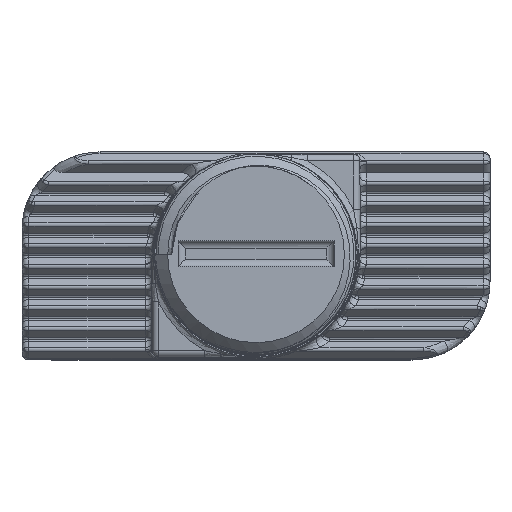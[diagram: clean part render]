
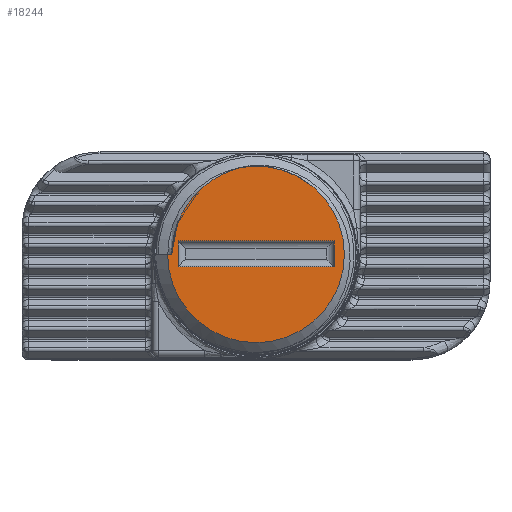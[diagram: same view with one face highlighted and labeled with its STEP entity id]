
A CAD part, top view. The second image highlights one B-rep face of the part: STEP entity #18244.
In plain terms, the highlighted planar face has unit normal (0, 0, 1).
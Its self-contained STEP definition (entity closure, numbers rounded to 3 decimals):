
#397 = CARTESIAN_POINT ( 'NONE',  ( 3., 0.164, 39.5 ) ) ;
#571 = CARTESIAN_POINT ( 'NONE',  ( 0., 0.647, 39.5 ) ) ;
#914 = CARTESIAN_POINT ( 'NONE',  ( -2.986, 1.936, 39.5 ) ) ;
#1511 = FACE_BOUND ( 'NONE', #6872, .T. ) ;
#2196 = DIRECTION ( 'NONE',  ( 0., 0., 1. ) ) ;
#2413 = CARTESIAN_POINT ( 'NONE',  ( -1.012, 3.867, 39.5 ) ) ;
#2473 = CARTESIAN_POINT ( 'NONE',  ( -3.157, 1.399, 39.5 ) ) ;
#2486 = FACE_OUTER_BOUND ( 'NONE', #6166, .T. ) ;
#2640 = EDGE_CURVE ( 'NONE', #5070, #4145, #8839, .T. ) ;
#3398 = EDGE_CURVE ( 'NONE', #8612, #8654, #7965, .T. ) ;
#3593 = VECTOR ( 'NONE', #7727, 1000. ) ;
#3770 = CARTESIAN_POINT ( 'NONE',  ( -0.626, 3.984, 39.5 ) ) ;
#3989 = CARTESIAN_POINT ( 'NONE',  ( -0.648, 3.978, 39.5 ) ) ;
#4057 = CARTESIAN_POINT ( 'NONE',  ( -3.238, 0.837, 39.5 ) ) ;
#4145 = VERTEX_POINT ( 'NONE', #10215 ) ;
#4253 = VECTOR ( 'NONE', #4517, 1000. ) ;
#4517 = DIRECTION ( 'NONE',  ( 1., 0., 0. ) ) ;
#4851 = EDGE_CURVE ( 'NONE', #11271, #12586, #10464, .T. ) ;
#5070 = VERTEX_POINT ( 'NONE', #20592 ) ;
#5205 = CARTESIAN_POINT ( 'NONE',  ( 3., 1.164, 39.5 ) ) ;
#5270 = CARTESIAN_POINT ( 'NONE',  ( -3., 0.164, 39.5 ) ) ;
#5304 = CARTESIAN_POINT ( 'NONE',  ( -0.581, 3.997, 39.5 ) ) ;
#5483 = LINE ( 'NONE', #17129, #9290 ) ;
#5586 = LINE ( 'NONE', #5784, #14173 ) ;
#5613 = CARTESIAN_POINT ( 'NONE',  ( -1.832, 3.4, 39.5 ) ) ;
#5784 = CARTESIAN_POINT ( 'NONE',  ( -3., 1.164, 39.5 ) ) ;
#5884 = ORIENTED_EDGE ( 'NONE', *, *, #12447, .F. ) ;
#6166 = EDGE_LOOP ( 'NONE', ( #15194, #11665, #13450, #18747 ) ) ;
#6872 = EDGE_LOOP ( 'NONE', ( #5884, #11715, #18540, #9693 ) ) ;
#6926 = PLANE ( 'NONE',  #10444 ) ;
#7217 = CARTESIAN_POINT ( 'NONE',  ( -2.259, 3.031, 39.5 ) ) ;
#7233 = VECTOR ( 'NONE', #8390, 1000. ) ;
#7238 = VERTEX_POINT ( 'NONE', #5270 ) ;
#7338 = LINE ( 'NONE', #12546, #3593 ) ;
#7404 = CARTESIAN_POINT ( 'NONE',  ( -3., 1.164, 39.5 ) ) ;
#7727 = DIRECTION ( 'NONE',  ( -1., 0., 0. ) ) ;
#7965 = LINE ( 'NONE', #5205, #7233 ) ;
#8137 = CARTESIAN_POINT ( 'NONE',  ( -3.4, 0.647, 39.5 ) ) ;
#8257 = DIRECTION ( 'NONE',  ( 0., 0., 1. ) ) ;
#8390 = DIRECTION ( 'NONE',  ( 0., 1., 0. ) ) ;
#8566 = LINE ( 'NONE', #10972, #4253 ) ;
#8612 = VERTEX_POINT ( 'NONE', #397 ) ;
#8654 = VERTEX_POINT ( 'NONE', #18252 ) ;
#8839 = B_SPLINE_CURVE_WITH_KNOTS ( 'NONE', 3,
 ( #3989, #2413, #15274, #5613, #16909, #7217, #18519, #8871, #20142, #10504, #914, #12118, #2473, #13733, #4057, #15341 ),
 .UNSPECIFIED., .F., .F.,
 ( 4, 2, 2, 2, 2, 2, 2, 4 ),
 ( 0., 0.001, 0.002, 0.002, 0.003, 0.003, 0.004, 0.005 ),
 .UNSPECIFIED. ) ;
#8871 = CARTESIAN_POINT ( 'NONE',  ( -2.623, 2.597, 39.5 ) ) ;
#8919 = AXIS2_PLACEMENT_3D ( 'NONE', #17931, #8257, #19537 ) ;
#8980 = EDGE_CURVE ( 'NONE', #4145, #11271, #7338, .T. ) ;
#9290 = VECTOR ( 'NONE', #18733, 1000. ) ;
#9693 = ORIENTED_EDGE ( 'NONE', *, *, #15254, .F. ) ;
#10215 = CARTESIAN_POINT ( 'NONE',  ( -3.238, 0.647, 39.5 ) ) ;
#10444 = AXIS2_PLACEMENT_3D ( 'NONE', #571, #2196, #13446 ) ;
#10464 = CIRCLE ( 'NONE', #8919, 3.4 ) ;
#10504 = CARTESIAN_POINT ( 'NONE',  ( -2.908, 2.111, 39.5 ) ) ;
#10598 = EDGE_CURVE ( 'NONE', #12586, #5070, #14256, .T. ) ;
#10972 = CARTESIAN_POINT ( 'NONE',  ( -3., 0.164, 39.5 ) ) ;
#11271 = VERTEX_POINT ( 'NONE', #8137 ) ;
#11665 = ORIENTED_EDGE ( 'NONE', *, *, #8980, .T. ) ;
#11715 = ORIENTED_EDGE ( 'NONE', *, *, #17838, .F. ) ;
#12118 = CARTESIAN_POINT ( 'NONE',  ( -3.11, 1.58, 39.5 ) ) ;
#12447 = EDGE_CURVE ( 'NONE', #15216, #7238, #5586, .T. ) ;
#12546 = CARTESIAN_POINT ( 'NONE',  ( 0., 0.647, 39.5 ) ) ;
#12586 = VERTEX_POINT ( 'NONE', #15597 ) ;
#13446 = DIRECTION ( 'NONE',  ( 1., 0., 0. ) ) ;
#13450 = ORIENTED_EDGE ( 'NONE', *, *, #4851, .T. ) ;
#13733 = CARTESIAN_POINT ( 'NONE',  ( -3.221, 1.028, 39.5 ) ) ;
#14173 = VECTOR ( 'NONE', #17082, 1000. ) ;
#14256 = B_SPLINE_CURVE_WITH_KNOTS ( 'NONE', 3,
 ( #5304, #19832, #3770, #15044 ),
 .UNSPECIFIED., .F., .F.,
 ( 4, 4 ),
 ( 0., 0.001 ),
 .UNSPECIFIED. ) ;
#15044 = CARTESIAN_POINT ( 'NONE',  ( -0.648, 3.978, 39.5 ) ) ;
#15194 = ORIENTED_EDGE ( 'NONE', *, *, #2640, .T. ) ;
#15216 = VERTEX_POINT ( 'NONE', #7404 ) ;
#15254 = EDGE_CURVE ( 'NONE', #7238, #8612, #8566, .T. ) ;
#15274 = CARTESIAN_POINT ( 'NONE',  ( -1.362, 3.709, 39.5 ) ) ;
#15341 = CARTESIAN_POINT ( 'NONE',  ( -3.238, 0.647, 39.5 ) ) ;
#15597 = CARTESIAN_POINT ( 'NONE',  ( -0.581, 3.997, 39.5 ) ) ;
#16909 = CARTESIAN_POINT ( 'NONE',  ( -1.98, 3.285, 39.5 ) ) ;
#17082 = DIRECTION ( 'NONE',  ( 0., -1., 0. ) ) ;
#17129 = CARTESIAN_POINT ( 'NONE',  ( -3., 1.164, 39.5 ) ) ;
#17838 = EDGE_CURVE ( 'NONE', #8654, #15216, #5483, .T. ) ;
#17931 = CARTESIAN_POINT ( 'NONE',  ( 0., 0.647, 39.5 ) ) ;
#18244 = ADVANCED_FACE ( 'NONE', ( #1511, #2486 ), #6926, .T. ) ;
#18252 = CARTESIAN_POINT ( 'NONE',  ( 3., 1.164, 39.5 ) ) ;
#18519 = CARTESIAN_POINT ( 'NONE',  ( -2.39, 2.891, 39.5 ) ) ;
#18540 = ORIENTED_EDGE ( 'NONE', *, *, #3398, .F. ) ;
#18733 = DIRECTION ( 'NONE',  ( -1., 0., 0. ) ) ;
#18747 = ORIENTED_EDGE ( 'NONE', *, *, #10598, .T. ) ;
#19537 = DIRECTION ( 'NONE',  ( 1., 0., 0. ) ) ;
#19832 = CARTESIAN_POINT ( 'NONE',  ( -0.604, 3.991, 39.5 ) ) ;
#20142 = CARTESIAN_POINT ( 'NONE',  ( -2.726, 2.441, 39.5 ) ) ;
#20592 = CARTESIAN_POINT ( 'NONE',  ( -0.648, 3.978, 39.5 ) ) ;
